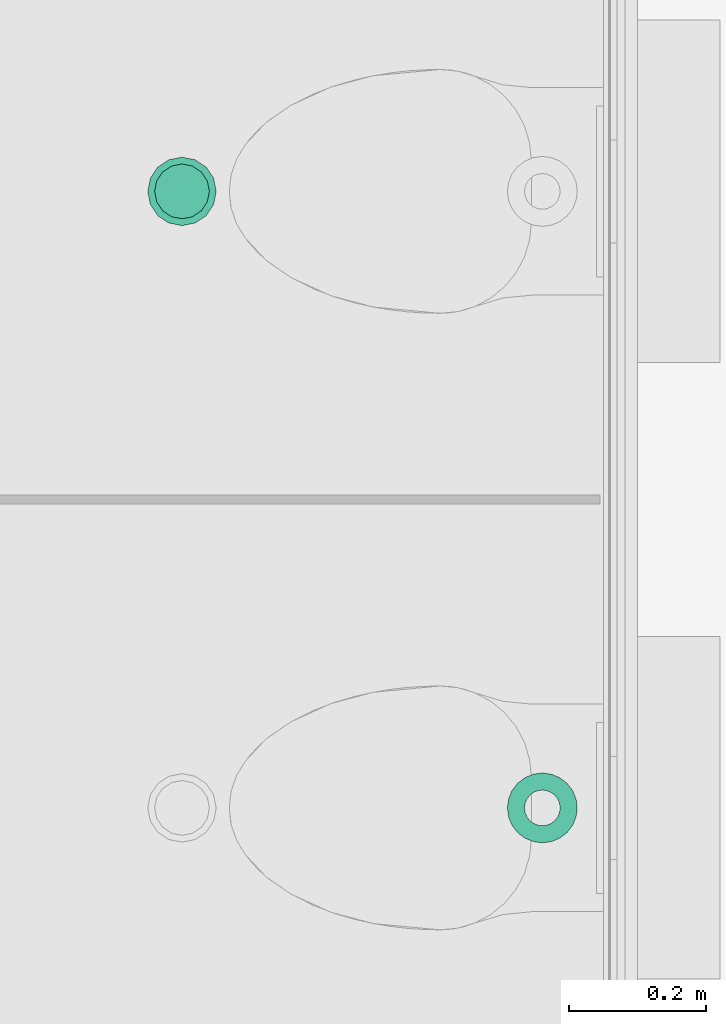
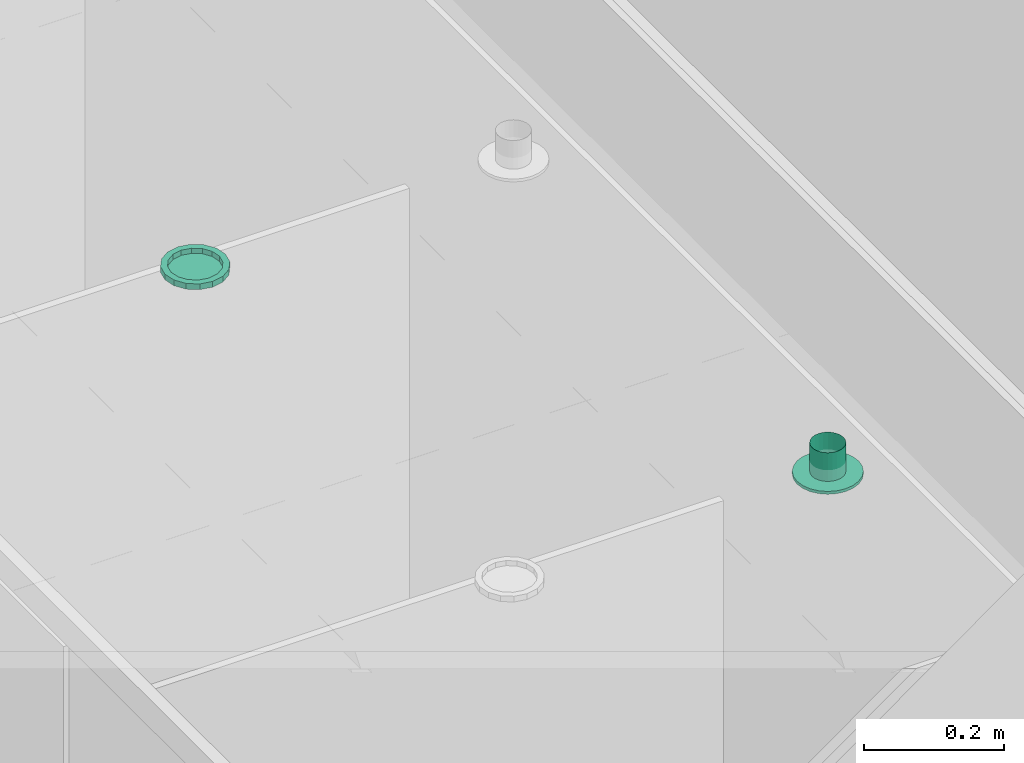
# One storey, part 257 of 347: 2 flow terminals.
"""IFC2X3 building model written with IfcOpenShell, lengths in millimetres."""

from ifc_helpers import new_model, entity, si_unit, converted_unit, derived_unit, money_unit, direction, frame, origin_with_axes, place, context, subcontext, project, spatial, open_shell, faceted_brep, surface_model, source, transform, mapped, type_object, type_shapes, element, save


model = new_model("IFC2X3")

# Units and contexts
model_context = context("Model", 3, precision=0.01, world=origin_with_axes(), true_north=direction((0.0, 1.0)))
plan_context = context("Plan", 3, precision=0.01, world=origin_with_axes(), true_north=direction((0.0, 1.0)))
body_context = subcontext(model_context, "Body", "Model", "MODEL_VIEW")
ifc_project = project(units=[si_unit("LENGTHUNIT", "METRE", prefix="MILLI"), si_unit("AREAUNIT", "SQUARE_METRE"), si_unit("VOLUMEUNIT", "CUBIC_METRE"), converted_unit("PLANEANGLEUNIT", "DEGREE", entity("IfcPlaneAngleMeasure", 0.0174532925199), si_unit("PLANEANGLEUNIT", "RADIAN"), dimensions=[0, 0, 0, 0, 0, 0, 0]), money_unit("EUR"), converted_unit("TIMEUNIT", "Year", entity("IfcTimeMeasure", 31556926.0), si_unit("TIMEUNIT", "SECOND"), dimensions=[0, 0, 1, 0, 0, 0, 0]), si_unit("MASSUNIT", "GRAM", prefix="KILO"), si_unit("THERMODYNAMICTEMPERATUREUNIT", "DEGREE_CELSIUS"), si_unit("LUMINOUSINTENSITYUNIT", "LUMEN"), si_unit("ENERGYUNIT", "JOULE", prefix="MEGA"), derived_unit("THERMALCONDUCTANCEUNIT", [(si_unit("POWERUNIT", "WATT"), 1), (si_unit("LENGTHUNIT", "METRE"), -1), (si_unit("THERMODYNAMICTEMPERATUREUNIT", "KELVIN"), -1)]), derived_unit("SPECIFICHEATCAPACITYUNIT", [(si_unit("ENERGYUNIT", "JOULE"), 1), (si_unit("MASSUNIT", "GRAM", prefix="KILO"), -1), (si_unit("THERMODYNAMICTEMPERATUREUNIT", "KELVIN"), -1)]), derived_unit("MASSDENSITYUNIT", [(si_unit("MASSUNIT", "GRAM", prefix="KILO"), 1), (si_unit("VOLUMEUNIT", "CUBIC_METRE"), -1)])], contexts=[model_context, plan_context])

# Site, building, storey
site_placement = place(None, origin_with_axes())
site = spatial("IfcSite", under=ifc_project, at=site_placement, Name="Site", CompositionType="ELEMENT")
building_placement = place(site_placement, origin_with_axes())
building = spatial("IfcBuilding", under=site, at=building_placement, Name="Naam gebouw", CompositionType="ELEMENT")
storey_placement = place(building_placement, origin_with_axes())
storey = spatial("IfcBuildingStorey", under=building, at=storey_placement, Name="begane grond", CompositionType="ELEMENT", Elevation=0.0)

# Flow terminals
lamp_type = type_object("IfcLampType", Name="Spot plafond 01 25", PredefinedType="NOTDEFINED")
shared_shape_1 = source(origin_with_axes(), body_context, "Body", "SurfaceModel", [
    faceted_brep([(50.0, 0.0, -10.0), (46.1939766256, 19.1341716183, -10.0), (46.1939766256, 19.1341716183, 0.0), (50.0, 0.0, 0.0), (46.1939766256, -19.1341716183, -10.0), (35.3553390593, -35.3553390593, -10.0), (19.1341716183, -46.1939766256, -10.0), (0.0, -50.0, -10.0), (-19.1341716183, -46.1939766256, -10.0), (-35.3553390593, -35.3553390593, -10.0), (-46.1939766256, -19.1341716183, -10.0), (-50.0, 0.0, -10.0), (-46.1939766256, 19.1341716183, -10.0), (-35.3553390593, 35.3553390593, -10.0), (-19.1341716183, 46.1939766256, -10.0), (0.0, 50.0, -10.0), (19.1341716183, 46.1939766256, -10.0), (35.3553390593, 35.3553390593, -10.0), (40.0, 0.0, -10.0), (36.9551813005, 15.3073372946, -10.0), (28.2842712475, 28.2842712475, -10.0), (15.3073372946, 36.9551813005, -10.0), (0.0, 40.0, -10.0), (-15.3073372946, 36.9551813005, -10.0), (-28.2842712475, 28.2842712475, -10.0), (-36.9551813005, 15.3073372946, -10.0), (-40.0, 0.0, -10.0), (-36.9551813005, -15.3073372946, -10.0), (-28.2842712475, -28.2842712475, -10.0), (-15.3073372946, -36.9551813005, -10.0), (0.0, -40.0, -10.0), (15.3073372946, -36.9551813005, -10.0), (28.2842712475, -28.2842712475, -10.0), (36.9551813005, -15.3073372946, -10.0), (35.3553390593, 35.3553390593, 0.0), (19.1341716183, 46.1939766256, 0.0), (0.0, 50.0, 0.0), (-19.1341716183, 46.1939766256, 0.0), (-35.3553390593, 35.3553390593, 0.0), (-46.1939766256, 19.1341716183, 0.0), (-50.0, 0.0, 0.0), (-46.1939766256, -19.1341716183, 0.0), (-35.3553390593, -35.3553390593, 0.0), (-19.1341716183, -46.1939766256, 0.0), (0.0, -50.0, 0.0), (19.1341716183, -46.1939766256, 0.0), (35.3553390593, -35.3553390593, 0.0), (46.1939766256, -19.1341716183, 0.0), (40.0, 0.0, 0.0), (36.9551813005, -15.3073372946, 0.0), (28.2842712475, -28.2842712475, 0.0), (15.3073372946, -36.9551813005, 0.0), (0.0, -40.0, 0.0), (-15.3073372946, -36.9551813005, 0.0), (-28.2842712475, -28.2842712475, 0.0), (-36.9551813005, -15.3073372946, 0.0), (-40.0, 0.0, 0.0), (-36.9551813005, 15.3073372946, 0.0), (-28.2842712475, 28.2842712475, 0.0), (-15.3073372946, 36.9551813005, 0.0), (0.0, 40.0, 0.0), (15.3073372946, 36.9551813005, 0.0), (28.2842712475, 28.2842712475, 0.0), (36.9551813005, 15.3073372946, 0.0)], [[[0, 1, 2, 3]], [[0, 4, 5, 6, 7, 8, 9, 10, 11, 12, 13, 14, 15, 16, 17, 1], [18, 19, 20, 21, 22, 23, 24, 25, 26, 27, 28, 29, 30, 31, 32, 33]], [[1, 17, 34, 2]], [[3, 2, 34, 35, 36, 37, 38, 39, 40, 41, 42, 43, 44, 45, 46, 47], [48, 49, 50, 51, 52, 53, 54, 55, 56, 57, 58, 59, 60, 61, 62, 63]], [[4, 0, 3, 47]], [[5, 4, 47, 46]], [[6, 5, 46, 45]], [[7, 6, 45, 44]], [[8, 7, 44, 43]], [[9, 8, 43, 42]], [[10, 9, 42, 41]], [[11, 10, 41, 40]], [[12, 11, 40, 39]], [[13, 12, 39, 38]], [[14, 13, 38, 37]], [[15, 14, 37, 36]], [[16, 15, 36, 35]], [[17, 16, 35, 34]], [[19, 18, 48, 63]], [[20, 19, 63, 62]], [[21, 20, 62, 61]], [[22, 21, 61, 60]], [[23, 22, 60, 59]], [[24, 23, 59, 58]], [[25, 24, 58, 57]], [[26, 25, 57, 56]], [[27, 26, 56, 55]], [[28, 27, 55, 54]], [[29, 28, 54, 53]], [[30, 29, 53, 52]], [[31, 30, 52, 51]], [[32, 31, 51, 50]], [[33, 32, 50, 49]], [[18, 33, 49, 48]]]),
    surface_model("IfcShellBasedSurfaceModel", [(40.0, 0.0, -8.9), (36.9551813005, -15.3073372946, -8.9), (28.2842712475, -28.2842712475, -8.9), (15.3073372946, -36.9551813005, -8.9), (0.0, -40.0, -8.9), (-15.3073372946, -36.9551813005, -8.9), (-28.2842712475, -28.2842712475, -8.9), (-36.9551813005, -15.3073372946, -8.9), (-40.0, 0.0, -8.9), (-36.9551813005, 15.3073372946, -8.9), (-28.2842712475, 28.2842712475, -8.9), (-15.3073372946, 36.9551813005, -8.9), (0.0, 40.0, -8.9), (15.3073372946, 36.9551813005, -8.9), (28.2842712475, 28.2842712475, -8.9), (36.9551813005, 15.3073372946, -8.9)], [open_shell([[[0, 1, 2, 3, 4, 5, 6, 7, 8, 9, 10, 11, 12, 13, 14, 15]]])]),
])
type_shapes(lamp_type, [shared_shape_1])
flow_terminal_1_placement = place(storey_placement, frame((37540.0, 33189.9999277, 2600.0), z_axis=(0.0, 0.0, 1.0), x_axis=(1.0, 0.0, 0.0)))
element("IfcFlowTerminal", 1, at=flow_terminal_1_placement, inside=storey, type_object=lamp_type, Name="63_Lamp-x", ObjectType="Lamp", context=body_context, shape_type="MappedRepresentation", body=[
    mapped(shared_shape_1, transform((0.0, 0.0, 0.0))),
])
air_terminal_type = type_object("IfcAirTerminalType", Name="Rooster plafond rond 25", PredefinedType="GRILLE")
shared_shape_2 = source(origin_with_axes(), body_context, "Body", "SurfaceModel", [
    faceted_brep([(51.0, 0.0, -5.0), (49.2622171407, 13.1997713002, -5.0), (49.2622171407, 13.1997713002, 0.0), (51.0, 0.0, 0.0), (49.2622171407, -13.1997713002, -5.0), (44.167295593, -25.5, -5.0), (36.0624458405, -36.0624458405, -5.0), (25.5, -44.167295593, -5.0), (13.1997713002, -49.2622171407, -5.0), (0.0, -51.0, -5.0), (-13.1997713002, -49.2622171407, -5.0), (-25.5, -44.167295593, -5.0), (-36.0624458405, -36.0624458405, -5.0), (-44.167295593, -25.5, -5.0), (-49.2622171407, -13.1997713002, -5.0), (-51.0, 0.0, -5.0), (-49.2622171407, 13.1997713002, -5.0), (-44.167295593, 25.5, -5.0), (-36.0624458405, 36.0624458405, -5.0), (-25.5, 44.167295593, -5.0), (-13.1997713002, 49.2622171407, -5.0), (0.0, 51.0, -5.0), (13.1997713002, 49.2622171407, -5.0), (25.5, 44.167295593, -5.0), (36.0624458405, 36.0624458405, -5.0), (44.167295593, 25.5, -5.0), (26.0, 0.0, -5.0), (25.1140714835, 6.72929517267, -5.0), (22.5166604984, 13.0, -5.0), (18.3847763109, 18.3847763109, -5.0), (13.0, 22.5166604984, -5.0), (6.72929517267, 25.1140714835, -5.0), (0.0, 26.0, -5.0), (-6.72929517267, 25.1140714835, -5.0), (-13.0, 22.5166604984, -5.0), (-18.3847763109, 18.3847763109, -5.0), (-22.5166604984, 13.0, -5.0), (-25.1140714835, 6.72929517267, -5.0), (-26.0, 0.0, -5.0), (-25.1140714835, -6.72929517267, -5.0), (-22.5166604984, -13.0, -5.0), (-18.3847763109, -18.3847763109, -5.0), (-13.0, -22.5166604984, -5.0), (-6.72929517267, -25.1140714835, -5.0), (0.0, -26.0, -5.0), (6.72929517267, -25.1140714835, -5.0), (13.0, -22.5166604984, -5.0), (18.3847763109, -18.3847763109, -5.0), (22.5166604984, -13.0, -5.0), (25.1140714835, -6.72929517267, -5.0), (44.167295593, 25.5, 0.0), (36.0624458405, 36.0624458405, 0.0), (25.5, 44.167295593, 0.0), (13.1997713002, 49.2622171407, 0.0), (0.0, 51.0, 0.0), (-13.1997713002, 49.2622171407, 0.0), (-25.5, 44.167295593, 0.0), (-36.0624458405, 36.0624458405, 0.0), (-44.167295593, 25.5, 0.0), (-49.2622171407, 13.1997713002, 0.0), (-51.0, 0.0, 0.0), (-49.2622171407, -13.1997713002, 0.0), (-44.167295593, -25.5, 0.0), (-36.0624458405, -36.0624458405, 0.0), (-25.5, -44.167295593, 0.0), (-13.1997713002, -49.2622171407, 0.0), (0.0, -51.0, 0.0), (13.1997713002, -49.2622171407, 0.0), (25.5, -44.167295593, 0.0), (36.0624458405, -36.0624458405, 0.0), (44.167295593, -25.5, 0.0), (49.2622171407, -13.1997713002, 0.0), (26.0, 0.0, 0.0), (25.1140714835, -6.72929517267, 0.0), (22.5166604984, -13.0, 0.0), (18.3847763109, -18.3847763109, 0.0), (13.0, -22.5166604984, 0.0), (6.72929517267, -25.1140714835, 0.0), (0.0, -26.0, 0.0), (-6.72929517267, -25.1140714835, 0.0), (-13.0, -22.5166604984, 0.0), (-18.3847763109, -18.3847763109, 0.0), (-22.5166604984, -13.0, 0.0), (-25.1140714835, -6.72929517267, 0.0), (-26.0, 0.0, 0.0), (-25.1140714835, 6.72929517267, 0.0), (-22.5166604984, 13.0, 0.0), (-18.3847763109, 18.3847763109, 0.0), (-13.0, 22.5166604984, 0.0), (-6.72929517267, 25.1140714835, 0.0), (0.0, 26.0, 0.0), (6.72929517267, 25.1140714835, 0.0), (13.0, 22.5166604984, 0.0), (18.3847763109, 18.3847763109, 0.0), (22.5166604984, 13.0, 0.0), (25.1140714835, 6.72929517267, 0.0)], [[[0, 1, 2, 3]], [[0, 4, 5, 6, 7, 8, 9, 10, 11, 12, 13, 14, 15, 16, 17, 18, 19, 20, 21, 22, 23, 24, 25, 1], [26, 27, 28, 29, 30, 31, 32, 33, 34, 35, 36, 37, 38, 39, 40, 41, 42, 43, 44, 45, 46, 47, 48, 49]], [[1, 25, 50, 2]], [[3, 2, 50, 51, 52, 53, 54, 55, 56, 57, 58, 59, 60, 61, 62, 63, 64, 65, 66, 67, 68, 69, 70, 71], [72, 73, 74, 75, 76, 77, 78, 79, 80, 81, 82, 83, 84, 85, 86, 87, 88, 89, 90, 91, 92, 93, 94, 95]], [[4, 0, 3, 71]], [[5, 4, 71, 70]], [[6, 5, 70, 69]], [[7, 6, 69, 68]], [[8, 7, 68, 67]], [[9, 8, 67, 66]], [[10, 9, 66, 65]], [[11, 10, 65, 64]], [[12, 11, 64, 63]], [[13, 12, 63, 62]], [[14, 13, 62, 61]], [[15, 14, 61, 60]], [[16, 15, 60, 59]], [[17, 16, 59, 58]], [[18, 17, 58, 57]], [[19, 18, 57, 56]], [[20, 19, 56, 55]], [[21, 20, 55, 54]], [[22, 21, 54, 53]], [[23, 22, 53, 52]], [[24, 23, 52, 51]], [[25, 24, 51, 50]], [[27, 26, 72, 95]], [[28, 27, 95, 94]], [[29, 28, 94, 93]], [[30, 29, 93, 92]], [[31, 30, 92, 91]], [[32, 31, 91, 90]], [[33, 32, 90, 89]], [[34, 33, 89, 88]], [[35, 34, 88, 87]], [[36, 35, 87, 86]], [[37, 36, 86, 85]], [[38, 37, 85, 84]], [[39, 38, 84, 83]], [[40, 39, 83, 82]], [[41, 40, 82, 81]], [[42, 41, 81, 80]], [[43, 42, 80, 79]], [[44, 43, 79, 78]], [[45, 44, 78, 77]], [[46, 45, 77, 76]], [[47, 46, 76, 75]], [[48, 47, 75, 74]], [[49, 48, 74, 73]], [[26, 49, 73, 72]]]),
    surface_model("IfcShellBasedSurfaceModel", [(0.0, -26.0, 0.0), (6.72929517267, -25.1140714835, 0.0), (6.72929517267, -25.1140714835, 50.0), (0.0, -26.0, 50.0), (13.0, -22.5166604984, 0.0), (13.0, -22.5166604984, 50.0), (-6.72929517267, -25.1140714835, 0.0), (-6.72929517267, -25.1140714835, 50.0), (18.3847763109, -18.3847763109, 0.0), (18.3847763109, -18.3847763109, 50.0), (-13.0, -22.5166604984, 0.0), (-13.0, -22.5166604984, 50.0), (22.5166604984, -13.0, 0.0), (22.5166604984, -13.0, 50.0), (-18.3847763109, -18.3847763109, 0.0), (-18.3847763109, -18.3847763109, 50.0), (25.1140714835, -6.72929517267, 0.0), (25.1140714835, -6.72929517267, 50.0), (-22.5166604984, -13.0, 0.0), (-22.5166604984, -13.0, 50.0), (26.0, 0.0, 0.0), (26.0, 0.0, 50.0), (-25.1140714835, -6.72929517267, 0.0), (-25.1140714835, -6.72929517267, 50.0), (25.1140714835, 6.72929517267, 0.0), (25.1140714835, 6.72929517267, 50.0), (-26.0, 0.0, 0.0), (-26.0, 0.0, 50.0), (22.5166604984, 13.0, 0.0), (22.5166604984, 13.0, 50.0), (-25.1140714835, 6.72929517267, 0.0), (-25.1140714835, 6.72929517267, 50.0), (18.3847763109, 18.3847763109, 0.0), (18.3847763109, 18.3847763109, 50.0), (-22.5166604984, 13.0, 0.0), (-22.5166604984, 13.0, 50.0), (13.0, 22.5166604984, 0.0), (13.0, 22.5166604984, 50.0), (-18.3847763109, 18.3847763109, 0.0), (-18.3847763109, 18.3847763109, 50.0), (6.72929517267, 25.1140714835, 0.0), (6.72929517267, 25.1140714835, 50.0), (-13.0, 22.5166604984, 0.0), (-13.0, 22.5166604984, 50.0), (0.0, 26.0, 0.0), (0.0, 26.0, 50.0), (-6.72929517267, 25.1140714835, 0.0), (-6.72929517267, 25.1140714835, 50.0)], [open_shell([[[0, 1, 2, 3]], [[1, 4, 5, 2]], [[6, 0, 3, 7]], [[4, 8, 9, 5]], [[10, 6, 7, 11]], [[8, 12, 13, 9]], [[14, 10, 11, 15]], [[12, 16, 17, 13]], [[18, 14, 15, 19]], [[16, 20, 21, 17]], [[22, 18, 19, 23]], [[20, 24, 25, 21]], [[26, 22, 23, 27]], [[24, 28, 29, 25]], [[30, 26, 27, 31]], [[28, 32, 33, 29]], [[34, 30, 31, 35]], [[32, 36, 37, 33]], [[38, 34, 35, 39]], [[36, 40, 41, 37]], [[42, 38, 39, 43]], [[40, 44, 45, 41]], [[46, 42, 43, 47]], [[44, 46, 47, 45]]])]),
])
type_shapes(air_terminal_type, [shared_shape_2])
flow_terminal_2_placement = place(storey_placement, frame((38066.0, 32289.9999277, 2600.0), z_axis=(0.0, 0.0, 1.0), x_axis=(1.0, 0.0, 0.0)))
element("IfcFlowTerminal", 2, at=flow_terminal_2_placement, inside=storey, type_object=air_terminal_type, Name="57_78 garderobe", context=body_context, shape_type="MappedRepresentation", body=[
    mapped(shared_shape_2, transform((0.0, 0.0, 0.0))),
])

save(model, "model.ifc")
